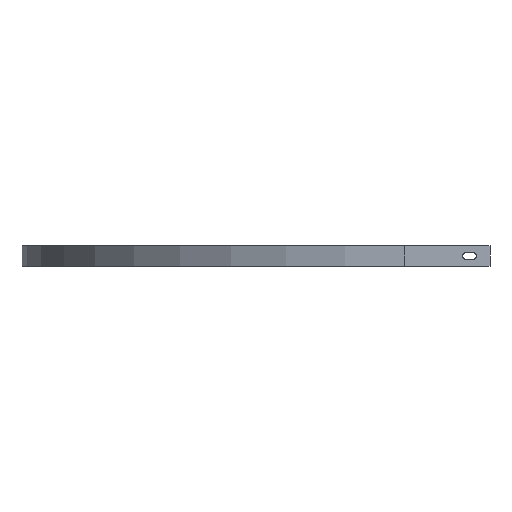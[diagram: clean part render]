
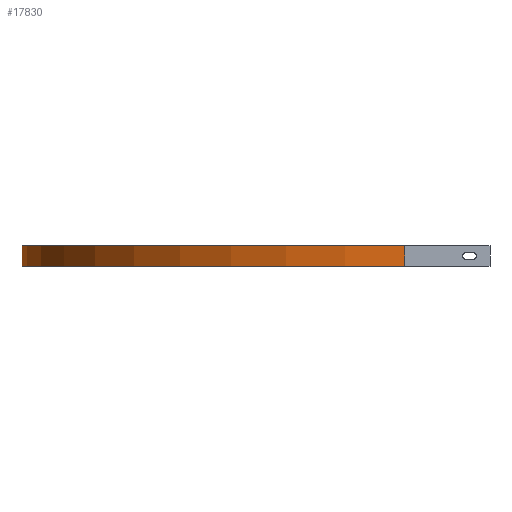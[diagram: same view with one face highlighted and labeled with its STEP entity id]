
A CAD part, left-side view. The second image highlights one B-rep face of the part: STEP entity #17830.
In plain terms, the highlighted cylindrical face has radius 560 mm (diameter 1120 mm), a partial arc.
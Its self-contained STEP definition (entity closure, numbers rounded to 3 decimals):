
#13880=CARTESIAN_POINT('',(0.,0.,0.));
#13890=DIRECTION('',(0.,0.,1.));
#13900=DIRECTION('',(1.,0.,0.));
#13910=AXIS2_PLACEMENT_3D('',#13880,#13890,#13900);
#13920=CIRCLE('',#13910,560.);
#13930=CARTESIAN_POINT('',(0.,560.,0.));
#13940=VERTEX_POINT('',#13930);
#13950=CARTESIAN_POINT('',(-560.,0.,0.));
#13960=VERTEX_POINT('',#13950);
#13970=EDGE_CURVE('',#13940,#13960,#13920,.T.);
#15750=CARTESIAN_POINT('',(-560.,0.,-30.));
#15760=VERTEX_POINT('',#15750);
#16070=CARTESIAN_POINT('',(0.,560.,-30.));
#16080=VERTEX_POINT('',#16070);
#16110=CARTESIAN_POINT('',(0.,0.,-30.));
#16120=DIRECTION('',(0.,0.,1.));
#16130=DIRECTION('',(1.,0.,0.));
#16140=AXIS2_PLACEMENT_3D('',#16110,#16120,#16130);
#16150=CIRCLE('',#16140,560.);
#16160=EDGE_CURVE('',#16080,#15760,#16150,.T.);
#17200=CARTESIAN_POINT('',(0.,560.,0.));
#17210=DIRECTION('',(0.,0.,-1.));
#17220=VECTOR('',#17210,1.);
#17230=LINE('',#17200,#17220);
#17240=EDGE_CURVE('',#13940,#16080,#17230,.T.);
#17670=CARTESIAN_POINT('',(0.,0.,0.));
#17680=DIRECTION('',(0.,0.,1.));
#17690=DIRECTION('',(1.,0.,0.));
#17700=AXIS2_PLACEMENT_3D('',#17670,#17680,#17690);
#17710=CYLINDRICAL_SURFACE('',#17700,560.);
#17720=ORIENTED_EDGE('',*,*,#13970,.F.);
#17730=CARTESIAN_POINT('',(-560.,0.,0.));
#17740=DIRECTION('',(0.,0.,-1.));
#17750=VECTOR('',#17740,1.);
#17760=LINE('',#17730,#17750);
#17770=EDGE_CURVE('',#13960,#15760,#17760,.T.);
#17780=ORIENTED_EDGE('',*,*,#17770,.F.);
#17790=ORIENTED_EDGE('',*,*,#16160,.T.);
#17800=ORIENTED_EDGE('',*,*,#17240,.T.);
#17810=EDGE_LOOP('',(#17800,#17790,#17780,#17720));
#17820=FACE_OUTER_BOUND('',#17810,.T.);
#17830=ADVANCED_FACE('',(#17820),#17710,.T.);
